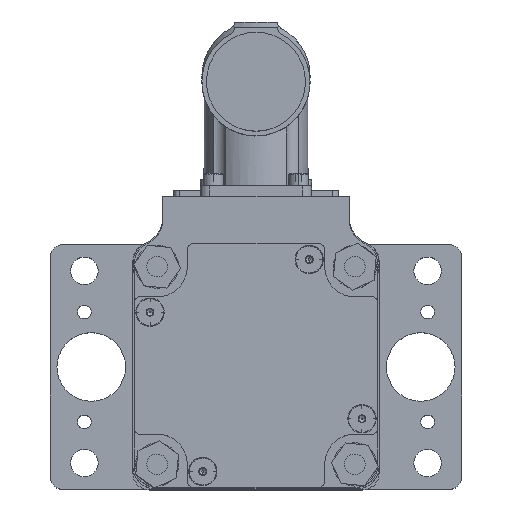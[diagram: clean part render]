
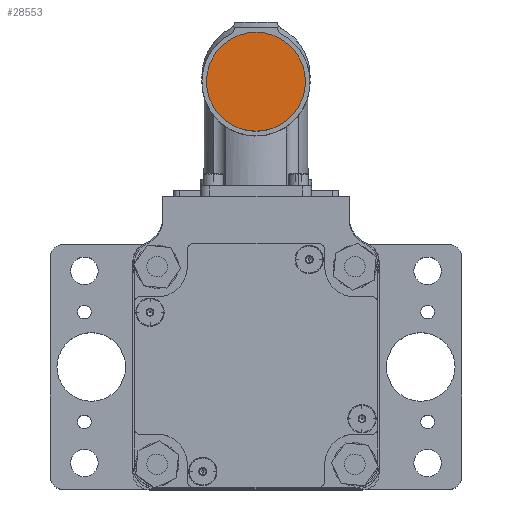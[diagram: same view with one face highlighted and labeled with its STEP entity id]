
A CAD part, top view. The second image highlights one B-rep face of the part: STEP entity #28553.
In plain terms, the highlighted planar face has unit normal (0, 0, 1) as drawn and (0, 1, 0) by its records, which use the part's own axes.
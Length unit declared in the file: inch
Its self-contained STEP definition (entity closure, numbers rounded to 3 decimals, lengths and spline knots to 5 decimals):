
#1757 = CARTESIAN_POINT ( 'NONE',  ( -0.4505, 1.90134, 1.04331 ) ) ;
#1759 = CARTESIAN_POINT ( 'NONE',  ( 0.4505, 1.90134, 1.04331 ) ) ;
#1784 = DIRECTION ( 'NONE',  ( -1., 0., 0. ) ) ;
#1785 = DIRECTION ( 'NONE',  ( 0., 1., 0. ) ) ;
#1786 = CARTESIAN_POINT ( 'NONE',  ( 0., 1.90134, 1.04331 ) ) ;
#1787 = AXIS2_PLACEMENT_3D ( 'NONE', #1786, #1785, #1784 ) ;
#1788 = CIRCLE ( 'NONE', #1787, 0.4505 ) ;
#3452 = DIRECTION ( 'NONE',  ( 1., 0., 0. ) ) ;
#3453 = DIRECTION ( 'NONE',  ( 0., -1., 0. ) ) ;
#3454 = CARTESIAN_POINT ( 'NONE',  ( -0.26247, 1.90134, 1.53543 ) ) ;
#3456 = PLANE ( 'NONE',  #3457 ) ;
#3457 = AXIS2_PLACEMENT_3D ( 'NONE', #3454, #3453, #3452 ) ;
#3458 = FACE_OUTER_BOUND ( 'NONE', #28497, .T. ) ;
#3459 = DIRECTION ( 'NONE',  ( -1., 0., 0. ) ) ;
#3460 = DIRECTION ( 'NONE',  ( 0., 1., 0. ) ) ;
#3461 = CARTESIAN_POINT ( 'NONE',  ( 0., 1.90134, 1.04331 ) ) ;
#3462 = AXIS2_PLACEMENT_3D ( 'NONE', #3461, #3460, #3459 ) ;
#3463 = CIRCLE ( 'NONE', #3462, 0.4505 ) ;
#28051 = EDGE_CURVE ( 'NONE', #28061, #28058, #1788, .T. ) ;
#28058 = VERTEX_POINT ( 'NONE', #1759 ) ;
#28061 = VERTEX_POINT ( 'NONE', #1757 ) ;
#28497 = EDGE_LOOP ( 'NONE', ( #28498, #28499 ) ) ;
#28498 = ORIENTED_EDGE ( 'NONE', *, *, #28051, .T. ) ;
#28499 = ORIENTED_EDGE ( 'NONE', *, *, #28552, .T. ) ;
#28552 = EDGE_CURVE ( 'NONE', #28058, #28061, #3463, .T. ) ;
#28553 = ADVANCED_FACE ( 'NONE', ( #3458 ), #3456, .F. ) ;
